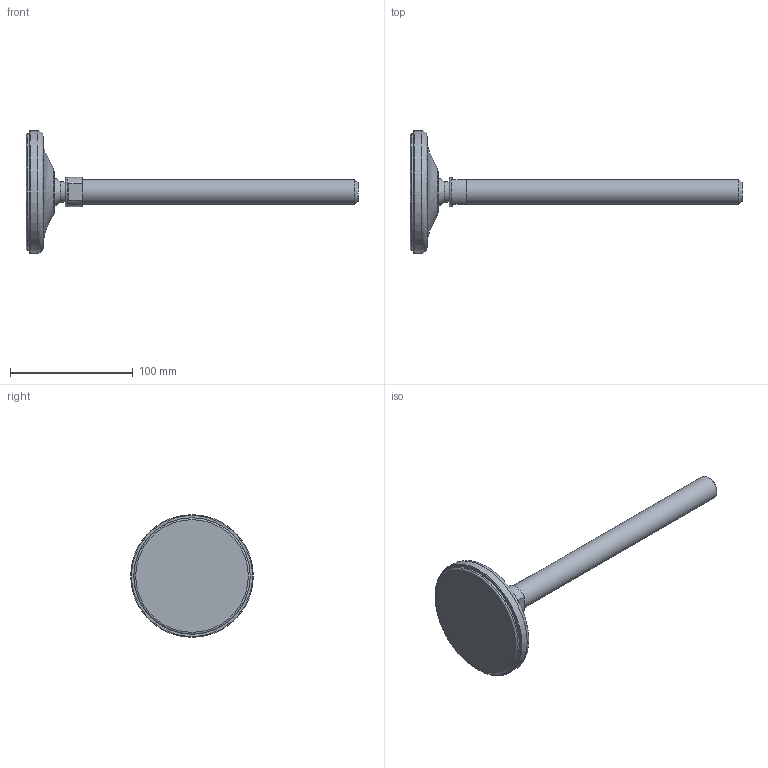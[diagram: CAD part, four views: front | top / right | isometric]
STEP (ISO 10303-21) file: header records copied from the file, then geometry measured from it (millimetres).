
FILE_DESCRIPTION(('STEP AP203'),'2;1');
FILE_NAME('10573.stp','2015-09-23T11:53:10',(''),(''),'2008.1.107','THINKDESIGN','');
FILE_SCHEMA(('CONFIG_CONTROL_DESIGN'));
Length unit declared in the file: millimetre
Bounding box: 271 x 100 x 100 mm (x, y, z)
Volume: 207161.2 mm3; surface area: 53414.7 mm2
Topology: 5 solids, 5 shells, 31 faces, 70 edges, 51 vertices
Faces by surface type: plane 16, bspline 8, cylinder 7
Full cylindrical faces by diameter (mm): 17 x1, 20 x1, 22 x1, 24 x1, 95 x2, 100 x1
Entity records: 1767 total; most frequent: CARTESIAN_POINT 941, DIRECTION 170, ORIENTED_EDGE 140, AXIS2_PLACEMENT_3D 77, EDGE_CURVE 70, CIRCLE 54, VERTEX_POINT 51, EDGE_LOOP 33
